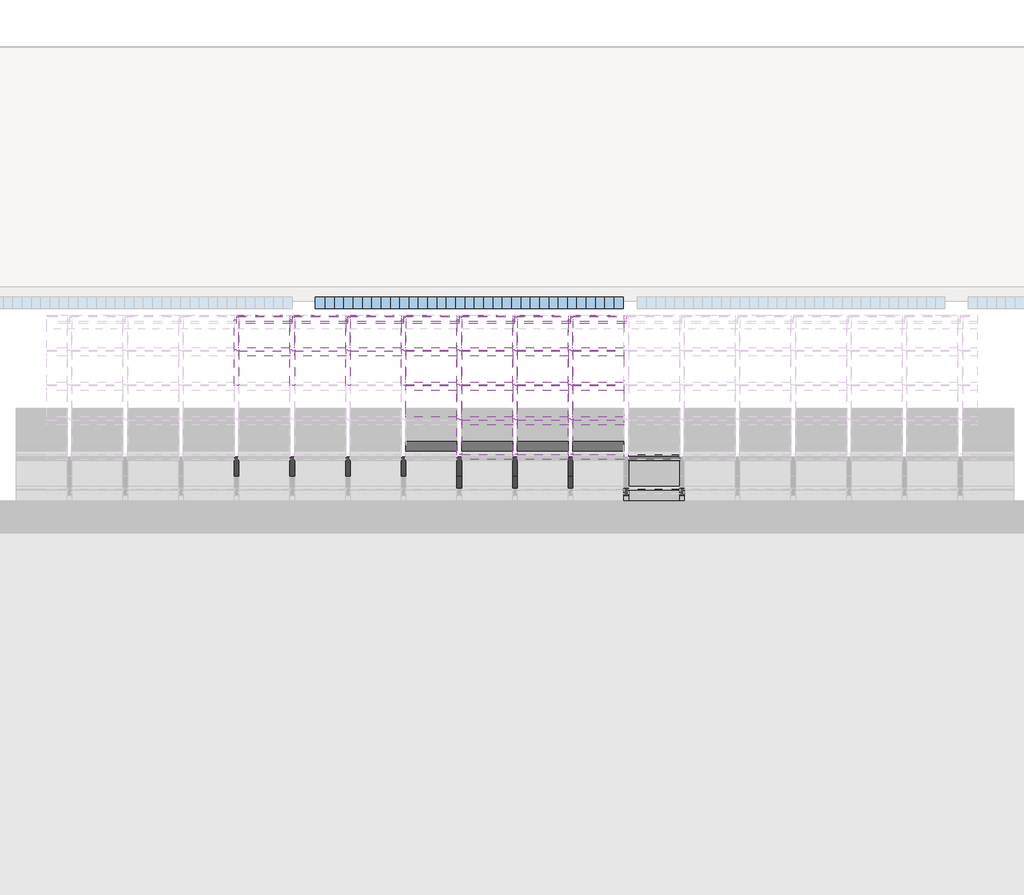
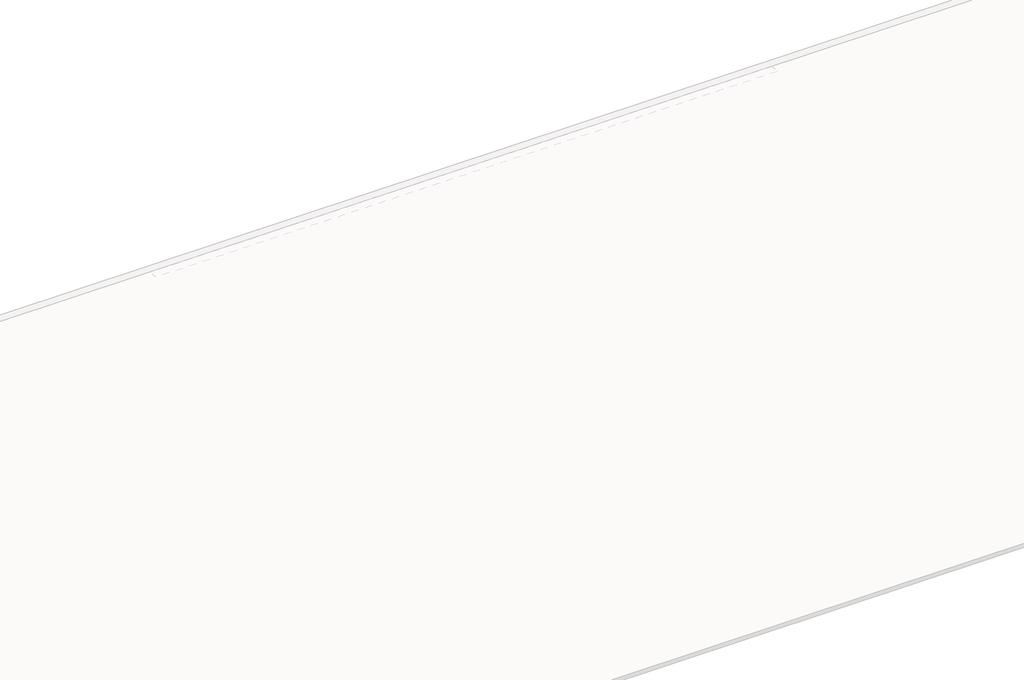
# One storey, part 31 of 57: 91 members, 30 plates, 1 window.
"""IFC4 building model written with IfcOpenShell, lengths in millimetres."""

from ifc_helpers import new_model, si_unit, origin, place, context, project, spatial, transform, mapped, element, save
from components import rectangular_mullion_4c4137b9, rectangular_mullion_59984080, rectangular_mullion_3ac3718c, rectangular_mullion_caibro_df98490b, rectangular_mullion_caibro_e4384bba, rectangular_mullion_caibro_0993a3cf, rectangular_mullion_caibro_650698a1, empty_system_panel_vazio_178faf58, window_60306791, window_6c828501, window_02d14e1e

model = new_model("IFC4")

# Units and contexts
model_context = context("Model", 3, world=origin())
ifc_project = project(units=[si_unit("LENGTHUNIT", "METRE", prefix="MILLI")], contexts=[model_context])

# Site, building, storey
site = spatial("IfcSite", under=ifc_project)
building = spatial("IfcBuilding", under=site)
storey = spatial("IfcBuildingStorey", under=building, Name="Nível 2", Elevation=4100.0)

# Members
placement = place(None, origin())
rectangular_mullion_shape = rectangular_mullion_4c4137b9(model_context)
element("IfcMember", 1, ObjectType="Rectangular Mullion : Ripa", at=placement, inside=storey, context=model_context, shape_type="MappedRepresentation", body=[
    mapped(rectangular_mullion_shape, transform((16080.9948064, 15566.1284427, 5819.8877114), x_axis=(0.0, 0.9578262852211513, 0.2873478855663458), y_axis=(0.0, 0.2873478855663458, -0.9578262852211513), z_axis=(-1.0, 0.0, 0.0))),
])
element("IfcMember", 2, ObjectType="Rectangular Mullion : Ripa", at=placement, inside=storey, context=model_context, shape_type="MappedRepresentation", body=[
    mapped(rectangular_mullion_shape, transform((16678.0495628, 15566.1284427, 5819.8877114), x_axis=(0.0, 0.9578262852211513, 0.2873478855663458), y_axis=(0.0, 0.2873478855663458, -0.9578262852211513), z_axis=(-1.0, 0.0, 0.0))),
])
element("IfcMember", 3, ObjectType="Rectangular Mullion : Ripa", at=placement, inside=storey, context=model_context, shape_type="MappedRepresentation", body=[
    mapped(rectangular_mullion_shape, transform((17275.1043192, 15566.1284427, 5819.8877114), x_axis=(0.0, 0.9578262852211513, 0.2873478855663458), y_axis=(0.0, 0.2873478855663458, -0.9578262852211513), z_axis=(-1.0, 0.0, 0.0))),
])
element("IfcMember", 4, ObjectType="Rectangular Mullion : Ripa", at=placement, inside=storey, context=model_context, shape_type="MappedRepresentation", body=[
    mapped(rectangular_mullion_shape, transform((17872.1590756, 15566.1284427, 5819.8877114), x_axis=(0.0, 0.9578262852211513, 0.2873478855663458), y_axis=(0.0, 0.2873478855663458, -0.9578262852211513), z_axis=(-1.0, 0.0, 0.0))),
])
element("IfcMember", 5, ObjectType="Rectangular Mullion : Ripa", at=placement, inside=storey, context=model_context, shape_type="MappedRepresentation", body=[
    mapped(rectangular_mullion_shape, transform((18469.2138321, 15566.1284427, 5819.8877114), x_axis=(0.0, 0.9578262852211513, 0.2873478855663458), y_axis=(0.0, 0.2873478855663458, -0.9578262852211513), z_axis=(-1.0, 0.0, 0.0))),
])
element("IfcMember", 6, ObjectType="Rectangular Mullion : Ripa", at=placement, inside=storey, context=model_context, shape_type="MappedRepresentation", body=[
    mapped(rectangular_mullion_shape, transform((19066.2685885, 15566.1284427, 5819.8877114), x_axis=(0.0, 0.9578262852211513, 0.2873478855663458), y_axis=(0.0, 0.2873478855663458, -0.9578262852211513), z_axis=(-1.0, 0.0, 0.0))),
])
element("IfcMember", 7, ObjectType="Rectangular Mullion : Ripa", at=placement, inside=storey, context=model_context, shape_type="MappedRepresentation", body=[
    mapped(rectangular_mullion_shape, transform((19663.3233449, 15566.1284427, 5819.8877114), x_axis=(0.0, 0.9578262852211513, 0.2873478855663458), y_axis=(0.0, 0.2873478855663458, -0.9578262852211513), z_axis=(-1.0, 0.0, 0.0))),
])
rectangular_mullion_2_shape = rectangular_mullion_59984080(model_context)
element("IfcMember", 8, ObjectType="Rectangular Mullion : Ripa", at=placement, inside=storey, context=model_context, shape_type="MappedRepresentation", body=[
    mapped(rectangular_mullion_2_shape, transform((20285.3781013, 12234.5331147, 4820.409113), x_axis=(0.0, 0.9578262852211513, 0.2873478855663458), y_axis=(0.0, 0.2873478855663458, -0.9578262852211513), z_axis=(-1.0, 0.0, 0.0))),
])
element("IfcMember", 9, ObjectType="Rectangular Mullion : Ripa", at=placement, inside=storey, context=model_context, shape_type="MappedRepresentation", body=[
    mapped(rectangular_mullion_2_shape, transform((20882.4328578, 12234.5331147, 4820.409113), x_axis=(0.0, 0.9578262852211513, 0.2873478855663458), y_axis=(0.0, 0.2873478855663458, -0.9578262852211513), z_axis=(-1.0, 0.0, 0.0))),
])
element("IfcMember", 10, ObjectType="Rectangular Mullion : Ripa", at=placement, inside=storey, context=model_context, shape_type="MappedRepresentation", body=[
    mapped(rectangular_mullion_2_shape, transform((21479.4876142, 12234.5331147, 4820.409113), x_axis=(0.0, 0.9578262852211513, 0.2873478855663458), y_axis=(0.0, 0.2873478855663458, -0.9578262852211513), z_axis=(-1.0, 0.0, 0.0))),
])
element("IfcMember", 11, ObjectType="Rectangular Mullion : Ripa", at=placement, inside=storey, context=model_context, shape_type="MappedRepresentation", body=[
    mapped(rectangular_mullion_2_shape, transform((20285.3781013, 12604.7103734, 4931.4622906), x_axis=(0.0, 0.9578262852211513, 0.2873478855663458), y_axis=(0.0, 0.2873478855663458, -0.9578262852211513), z_axis=(-1.0, 0.0, 0.0))),
])
element("IfcMember", 12, ObjectType="Rectangular Mullion : Ripa", at=placement, inside=storey, context=model_context, shape_type="MappedRepresentation", body=[
    mapped(rectangular_mullion_2_shape, transform((20882.4328578, 12604.7103734, 4931.4622906), x_axis=(0.0, 0.9578262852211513, 0.2873478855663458), y_axis=(0.0, 0.2873478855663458, -0.9578262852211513), z_axis=(-1.0, 0.0, 0.0))),
])
element("IfcMember", 13, ObjectType="Rectangular Mullion : Ripa", at=placement, inside=storey, context=model_context, shape_type="MappedRepresentation", body=[
    mapped(rectangular_mullion_2_shape, transform((21479.4876142, 12604.7103734, 4931.4622906), x_axis=(0.0, 0.9578262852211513, 0.2873478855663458), y_axis=(0.0, 0.2873478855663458, -0.9578262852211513), z_axis=(-1.0, 0.0, 0.0))),
])
element("IfcMember", 14, ObjectType="Rectangular Mullion : Ripa", at=placement, inside=storey, context=model_context, shape_type="MappedRepresentation", body=[
    mapped(rectangular_mullion_2_shape, transform((20285.3781013, 12974.8876321, 5042.5154682), x_axis=(0.0, 0.9578262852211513, 0.2873478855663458), y_axis=(0.0, 0.2873478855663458, -0.9578262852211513), z_axis=(-1.0, 0.0, 0.0))),
])
element("IfcMember", 15, ObjectType="Rectangular Mullion : Ripa", at=placement, inside=storey, context=model_context, shape_type="MappedRepresentation", body=[
    mapped(rectangular_mullion_2_shape, transform((20882.4328578, 12974.8876321, 5042.5154682), x_axis=(0.0, 0.9578262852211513, 0.2873478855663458), y_axis=(0.0, 0.2873478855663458, -0.9578262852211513), z_axis=(-1.0, 0.0, 0.0))),
])
element("IfcMember", 16, ObjectType="Rectangular Mullion : Ripa", at=placement, inside=storey, context=model_context, shape_type="MappedRepresentation", body=[
    mapped(rectangular_mullion_2_shape, transform((21479.4876142, 12974.8876321, 5042.5154682), x_axis=(0.0, 0.9578262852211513, 0.2873478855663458), y_axis=(0.0, 0.2873478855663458, -0.9578262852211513), z_axis=(-1.0, 0.0, 0.0))),
])
element("IfcMember", 17, ObjectType="Rectangular Mullion : Ripa", at=placement, inside=storey, context=model_context, shape_type="MappedRepresentation", body=[
    mapped(rectangular_mullion_2_shape, transform((20285.3781013, 13345.0648907, 5153.5686458), x_axis=(0.0, 0.9578262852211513, 0.2873478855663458), y_axis=(0.0, 0.2873478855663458, -0.9578262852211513), z_axis=(-1.0, 0.0, 0.0))),
])
element("IfcMember", 18, ObjectType="Rectangular Mullion : Ripa", at=placement, inside=storey, context=model_context, shape_type="MappedRepresentation", body=[
    mapped(rectangular_mullion_2_shape, transform((18494.2138321, 14085.4194081, 5375.675001), x_axis=(0.0, 0.9578262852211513, 0.2873478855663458), y_axis=(0.0, 0.2873478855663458, -0.9578262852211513), z_axis=(-1.0, 0.0, 0.0))),
])
element("IfcMember", 19, ObjectType="Rectangular Mullion : Ripa", at=placement, inside=storey, context=model_context, shape_type="MappedRepresentation", body=[
    mapped(rectangular_mullion_2_shape, transform((19091.2685885, 14085.4194081, 5375.675001), x_axis=(0.0, 0.9578262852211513, 0.2873478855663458), y_axis=(0.0, 0.2873478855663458, -0.9578262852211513), z_axis=(-1.0, 0.0, 0.0))),
])
element("IfcMember", 20, ObjectType="Rectangular Mullion : Ripa", at=placement, inside=storey, context=model_context, shape_type="MappedRepresentation", body=[
    mapped(rectangular_mullion_2_shape, transform((19688.3233449, 14085.4194081, 5375.675001), x_axis=(0.0, 0.9578262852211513, 0.2873478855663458), y_axis=(0.0, 0.2873478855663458, -0.9578262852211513), z_axis=(-1.0, 0.0, 0.0))),
])
element("IfcMember", 21, ObjectType="Rectangular Mullion : Ripa", at=placement, inside=storey, context=model_context, shape_type="MappedRepresentation", body=[
    mapped(rectangular_mullion_2_shape, transform((18494.2138321, 14455.5966667, 5486.7281786), x_axis=(0.0, 0.9578262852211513, 0.2873478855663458), y_axis=(0.0, 0.2873478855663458, -0.9578262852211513), z_axis=(-1.0, 0.0, 0.0))),
])
element("IfcMember", 22, ObjectType="Rectangular Mullion : Ripa", at=placement, inside=storey, context=model_context, shape_type="MappedRepresentation", body=[
    mapped(rectangular_mullion_2_shape, transform((19091.2685885, 14455.5966667, 5486.7281786), x_axis=(0.0, 0.9578262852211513, 0.2873478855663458), y_axis=(0.0, 0.2873478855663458, -0.9578262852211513), z_axis=(-1.0, 0.0, 0.0))),
])
element("IfcMember", 23, ObjectType="Rectangular Mullion : Ripa", at=placement, inside=storey, context=model_context, shape_type="MappedRepresentation", body=[
    mapped(rectangular_mullion_2_shape, transform((19688.3233449, 14455.5966667, 5486.7281786), x_axis=(0.0, 0.9578262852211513, 0.2873478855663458), y_axis=(0.0, 0.2873478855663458, -0.9578262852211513), z_axis=(-1.0, 0.0, 0.0))),
])
element("IfcMember", 24, ObjectType="Rectangular Mullion : Ripa", at=placement, inside=storey, context=model_context, shape_type="MappedRepresentation", body=[
    mapped(rectangular_mullion_2_shape, transform((17897.1590756, 14825.7739254, 5597.7813562), x_axis=(0.0, 0.9578262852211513, 0.2873478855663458), y_axis=(0.0, 0.2873478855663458, -0.9578262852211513), z_axis=(-1.0, 0.0, 0.0))),
])
element("IfcMember", 25, ObjectType="Rectangular Mullion : Ripa", at=placement, inside=storey, context=model_context, shape_type="MappedRepresentation", body=[
    mapped(rectangular_mullion_2_shape, transform((18494.2138321, 14825.7739254, 5597.7813562), x_axis=(0.0, 0.9578262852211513, 0.2873478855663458), y_axis=(0.0, 0.2873478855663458, -0.9578262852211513), z_axis=(-1.0, 0.0, 0.0))),
])
element("IfcMember", 26, ObjectType="Rectangular Mullion : Ripa", at=placement, inside=storey, context=model_context, shape_type="MappedRepresentation", body=[
    mapped(rectangular_mullion_2_shape, transform((19091.2685885, 14825.7739254, 5597.7813562), x_axis=(0.0, 0.9578262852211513, 0.2873478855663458), y_axis=(0.0, 0.2873478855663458, -0.9578262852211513), z_axis=(-1.0, 0.0, 0.0))),
])
element("IfcMember", 27, ObjectType="Rectangular Mullion : Ripa", at=placement, inside=storey, context=model_context, shape_type="MappedRepresentation", body=[
    mapped(rectangular_mullion_2_shape, transform((19688.3233449, 14825.7739254, 5597.7813562), x_axis=(0.0, 0.9578262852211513, 0.2873478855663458), y_axis=(0.0, 0.2873478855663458, -0.9578262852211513), z_axis=(-1.0, 0.0, 0.0))),
])
element("IfcMember", 28, ObjectType="Rectangular Mullion : Ripa", at=placement, inside=storey, context=model_context, shape_type="MappedRepresentation", body=[
    mapped(rectangular_mullion_2_shape, transform((16105.9948064, 15195.9511841, 5708.8345338), x_axis=(0.0, 0.9578262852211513, 0.2873478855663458), y_axis=(0.0, 0.2873478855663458, -0.9578262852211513), z_axis=(-1.0, 0.0, 0.0))),
])
element("IfcMember", 29, ObjectType="Rectangular Mullion : Ripa", at=placement, inside=storey, context=model_context, shape_type="MappedRepresentation", body=[
    mapped(rectangular_mullion_2_shape, transform((16703.0495628, 15195.9511841, 5708.8345338), x_axis=(0.0, 0.9578262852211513, 0.2873478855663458), y_axis=(0.0, 0.2873478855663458, -0.9578262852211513), z_axis=(-1.0, 0.0, 0.0))),
])
element("IfcMember", 30, ObjectType="Rectangular Mullion : Ripa", at=placement, inside=storey, context=model_context, shape_type="MappedRepresentation", body=[
    mapped(rectangular_mullion_2_shape, transform((17300.1043192, 15195.9511841, 5708.8345338), x_axis=(0.0, 0.9578262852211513, 0.2873478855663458), y_axis=(0.0, 0.2873478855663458, -0.9578262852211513), z_axis=(-1.0, 0.0, 0.0))),
])
element("IfcMember", 31, ObjectType="Rectangular Mullion : Ripa", at=placement, inside=storey, context=model_context, shape_type="MappedRepresentation", body=[
    mapped(rectangular_mullion_2_shape, transform((17897.1590756, 15195.9511841, 5708.8345338), x_axis=(0.0, 0.9578262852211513, 0.2873478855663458), y_axis=(0.0, 0.2873478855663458, -0.9578262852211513), z_axis=(-1.0, 0.0, 0.0))),
])
element("IfcMember", 32, ObjectType="Rectangular Mullion : Ripa", at=placement, inside=storey, context=model_context, shape_type="MappedRepresentation", body=[
    mapped(rectangular_mullion_2_shape, transform((18494.2138321, 15195.9511841, 5708.8345338), x_axis=(0.0, 0.9578262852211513, 0.2873478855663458), y_axis=(0.0, 0.2873478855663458, -0.9578262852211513), z_axis=(-1.0, 0.0, 0.0))),
])
element("IfcMember", 33, ObjectType="Rectangular Mullion : Ripa", at=placement, inside=storey, context=model_context, shape_type="MappedRepresentation", body=[
    mapped(rectangular_mullion_2_shape, transform((19091.2685885, 15195.9511841, 5708.8345338), x_axis=(0.0, 0.9578262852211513, 0.2873478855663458), y_axis=(0.0, 0.2873478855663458, -0.9578262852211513), z_axis=(-1.0, 0.0, 0.0))),
])
element("IfcMember", 34, ObjectType="Rectangular Mullion : Ripa", at=placement, inside=storey, context=model_context, shape_type="MappedRepresentation", body=[
    mapped(rectangular_mullion_2_shape, transform((19688.3233449, 15195.9511841, 5708.8345338), x_axis=(0.0, 0.9578262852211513, 0.2873478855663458), y_axis=(0.0, 0.2873478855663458, -0.9578262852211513), z_axis=(-1.0, 0.0, 0.0))),
])
rectangular_mullion_3_shape = rectangular_mullion_3ac3718c(model_context)
element("IfcMember", 35, ObjectType="Rectangular Mullion : Terça", at=placement, inside=storey, context=model_context, shape_type="MappedRepresentation", body=[
    mapped(rectangular_mullion_3_shape, transform((16080.9948064, 15566.1284427, 5757.2458723), x_axis=(0.0, 0.9578262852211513, 0.2873478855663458), y_axis=(0.0, 0.2873478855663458, -0.9578262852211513), z_axis=(-1.0, 0.0, 0.0))),
])
element("IfcMember", 36, ObjectType="Rectangular Mullion : Terça", at=placement, inside=storey, context=model_context, shape_type="MappedRepresentation", body=[
    mapped(rectangular_mullion_3_shape, transform((16678.0495628, 15566.1284427, 5757.2458723), x_axis=(0.0, 0.9578262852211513, 0.2873478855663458), y_axis=(0.0, 0.2873478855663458, -0.9578262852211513), z_axis=(-1.0, 0.0, 0.0))),
])
element("IfcMember", 37, ObjectType="Rectangular Mullion : Terça", at=placement, inside=storey, context=model_context, shape_type="MappedRepresentation", body=[
    mapped(rectangular_mullion_3_shape, transform((17275.1043192, 15566.1284427, 5757.2458723), x_axis=(0.0, 0.9578262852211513, 0.2873478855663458), y_axis=(0.0, 0.2873478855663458, -0.9578262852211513), z_axis=(-1.0, 0.0, 0.0))),
])
element("IfcMember", 38, ObjectType="Rectangular Mullion : Terça", at=placement, inside=storey, context=model_context, shape_type="MappedRepresentation", body=[
    mapped(rectangular_mullion_3_shape, transform((17872.1590756, 15566.1284427, 5757.2458723), x_axis=(0.0, 0.9578262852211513, 0.2873478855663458), y_axis=(0.0, 0.2873478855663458, -0.9578262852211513), z_axis=(-1.0, 0.0, 0.0))),
])
element("IfcMember", 39, ObjectType="Rectangular Mullion : Terça", at=placement, inside=storey, context=model_context, shape_type="MappedRepresentation", body=[
    mapped(rectangular_mullion_3_shape, transform((18469.2138321, 15566.1284427, 5757.2458723), x_axis=(0.0, 0.9578262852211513, 0.2873478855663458), y_axis=(0.0, 0.2873478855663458, -0.9578262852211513), z_axis=(-1.0, 0.0, 0.0))),
])
element("IfcMember", 40, ObjectType="Rectangular Mullion : Terça", at=placement, inside=storey, context=model_context, shape_type="MappedRepresentation", body=[
    mapped(rectangular_mullion_3_shape, transform((19066.2685885, 15566.1284427, 5757.2458723), x_axis=(0.0, 0.9578262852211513, 0.2873478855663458), y_axis=(0.0, 0.2873478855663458, -0.9578262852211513), z_axis=(-1.0, 0.0, 0.0))),
])
element("IfcMember", 41, ObjectType="Rectangular Mullion : Terça", at=placement, inside=storey, context=model_context, shape_type="MappedRepresentation", body=[
    mapped(rectangular_mullion_3_shape, transform((19663.3233449, 15566.1284427, 5757.2458723), x_axis=(0.0, 0.9578262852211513, 0.2873478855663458), y_axis=(0.0, 0.2873478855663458, -0.9578262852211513), z_axis=(-1.0, 0.0, 0.0))),
])
rectangular_mullion_caibro_shape = rectangular_mullion_caibro_df98490b(model_context)
element("IfcMember", 42, ObjectType="Rectangular Mullion : Caibro", at=placement, inside=storey, context=model_context, shape_type="MappedRepresentation", body=[
    mapped(rectangular_mullion_caibro_shape, transform((16080.9948064, 15518.2371285, 5805.5203171), x_axis=(1.0, 0.0, 0.0), y_axis=(0.0, 0.28734788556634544, -0.9578262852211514), z_axis=(0.0, 0.9578262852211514, 0.28734788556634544))),
])
element("IfcMember", 43, ObjectType="Rectangular Mullion : Caibro", at=placement, inside=storey, context=model_context, shape_type="MappedRepresentation", body=[
    mapped(rectangular_mullion_caibro_shape, transform((16678.0495628, 15518.2371285, 5805.5203171), x_axis=(1.0, 0.0, 0.0), y_axis=(0.0, 0.28734788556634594, -0.9578262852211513), z_axis=(0.0, 0.9578262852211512, 0.2873478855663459))),
])
element("IfcMember", 44, ObjectType="Rectangular Mullion : Caibro", at=placement, inside=storey, context=model_context, shape_type="MappedRepresentation", body=[
    mapped(rectangular_mullion_caibro_shape, transform((17275.1043192, 15518.2371285, 5805.5203171), x_axis=(1.0, 0.0, 0.0), y_axis=(0.0, 0.28734788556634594, -0.9578262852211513), z_axis=(0.0, 0.9578262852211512, 0.2873478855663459))),
])
element("IfcMember", 45, ObjectType="Rectangular Mullion : Caibro", at=placement, inside=storey, context=model_context, shape_type="MappedRepresentation", body=[
    mapped(rectangular_mullion_caibro_shape, transform((17872.1590756, 15518.2371285, 5805.5203171), x_axis=(1.0, 0.0, 0.0), y_axis=(0.0, 0.28734788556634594, -0.9578262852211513), z_axis=(0.0, 0.9578262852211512, 0.2873478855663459))),
])
element("IfcMember", 46, ObjectType="Rectangular Mullion : Caibro", at=placement, inside=storey, context=model_context, shape_type="MappedRepresentation", body=[
    mapped(rectangular_mullion_caibro_shape, transform((18469.2138321, 15518.2371285, 5805.5203171), x_axis=(1.0, 0.0, 0.0), y_axis=(0.0, 0.28734788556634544, -0.9578262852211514), z_axis=(0.0, 0.9578262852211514, 0.28734788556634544))),
])
element("IfcMember", 47, ObjectType="Rectangular Mullion : Caibro", at=placement, inside=storey, context=model_context, shape_type="MappedRepresentation", body=[
    mapped(rectangular_mullion_caibro_shape, transform((19066.2685885, 15518.2371285, 5805.5203171), x_axis=(1.0, 0.0, 0.0), y_axis=(0.0, 0.28734788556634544, -0.9578262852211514), z_axis=(0.0, 0.9578262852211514, 0.28734788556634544))),
])
element("IfcMember", 48, ObjectType="Rectangular Mullion : Caibro", at=placement, inside=storey, context=model_context, shape_type="MappedRepresentation", body=[
    mapped(rectangular_mullion_caibro_shape, transform((19663.3233449, 15518.2371285, 5805.5203171), x_axis=(1.0, 0.0, 0.0), y_axis=(0.0, 0.28734788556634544, -0.9578262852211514), z_axis=(0.0, 0.9578262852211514, 0.28734788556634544))),
])
rectangular_mullion_caibro_2_shape = rectangular_mullion_caibro_e4384bba(model_context)
element("IfcMember", 49, ObjectType="Rectangular Mullion : Caibro", at=placement, inside=storey, context=model_context, shape_type="MappedRepresentation", body=[
    mapped(rectangular_mullion_caibro_2_shape, transform((16080.9948064, 15195.9511841, 5708.8345338), x_axis=(1.0, 0.0, 0.0), y_axis=(0.0, 0.28734788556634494, -0.9578262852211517), z_axis=(0.0, 0.9578262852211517, 0.28734788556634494))),
])
element("IfcMember", 50, ObjectType="Rectangular Mullion : Caibro", at=placement, inside=storey, context=model_context, shape_type="MappedRepresentation", body=[
    mapped(rectangular_mullion_caibro_2_shape, transform((16678.0495628, 15195.9511841, 5708.8345338), x_axis=(1.0, 0.0, 0.0), y_axis=(0.0, 0.28734788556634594, -0.9578262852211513), z_axis=(0.0, 0.9578262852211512, 0.2873478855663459))),
])
element("IfcMember", 51, ObjectType="Rectangular Mullion : Caibro", at=placement, inside=storey, context=model_context, shape_type="MappedRepresentation", body=[
    mapped(rectangular_mullion_caibro_2_shape, transform((17275.1043192, 15195.9511841, 5708.8345338), x_axis=(1.0, 0.0, 0.0), y_axis=(0.0, 0.28734788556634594, -0.9578262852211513), z_axis=(0.0, 0.9578262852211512, 0.2873478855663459))),
])
element("IfcMember", 52, ObjectType="Rectangular Mullion : Caibro", at=placement, inside=storey, context=model_context, shape_type="MappedRepresentation", body=[
    mapped(rectangular_mullion_caibro_2_shape, transform((17872.1590756, 15195.9511841, 5708.8345338), x_axis=(1.0, 0.0, 0.0), y_axis=(0.0, 0.28734788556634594, -0.9578262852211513), z_axis=(0.0, 0.9578262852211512, 0.2873478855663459))),
])
element("IfcMember", 53, ObjectType="Rectangular Mullion : Caibro", at=placement, inside=storey, context=model_context, shape_type="MappedRepresentation", body=[
    mapped(rectangular_mullion_caibro_2_shape, transform((18469.2138321, 14085.4194081, 5375.675001), x_axis=(1.0, 0.0, 0.0), y_axis=(0.0, 0.28734788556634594, -0.9578262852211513), z_axis=(0.0, 0.9578262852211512, 0.2873478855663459))),
])
element("IfcMember", 54, ObjectType="Rectangular Mullion : Caibro", at=placement, inside=storey, context=model_context, shape_type="MappedRepresentation", body=[
    mapped(rectangular_mullion_caibro_2_shape, transform((18469.2138321, 14455.5966667, 5486.7281786), x_axis=(1.0, 0.0, 0.0), y_axis=(0.0, 0.2873478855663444, -0.9578262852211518), z_axis=(0.0, 0.9578262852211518, 0.2873478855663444))),
])
element("IfcMember", 55, ObjectType="Rectangular Mullion : Caibro", at=placement, inside=storey, context=model_context, shape_type="MappedRepresentation", body=[
    mapped(rectangular_mullion_caibro_2_shape, transform((18469.2138321, 14825.7739254, 5597.7813562), x_axis=(1.0, 0.0, 0.0), y_axis=(0.0, 0.287347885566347, -0.9578262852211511), z_axis=(0.0, 0.9578262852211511, 0.287347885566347))),
])
element("IfcMember", 56, ObjectType="Rectangular Mullion : Caibro", at=placement, inside=storey, context=model_context, shape_type="MappedRepresentation", body=[
    mapped(rectangular_mullion_caibro_2_shape, transform((18469.2138321, 15195.9511841, 5708.8345338), x_axis=(1.0, 0.0, 0.0), y_axis=(0.0, 0.28734788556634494, -0.9578262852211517), z_axis=(0.0, 0.9578262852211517, 0.28734788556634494))),
])
element("IfcMember", 57, ObjectType="Rectangular Mullion : Caibro", at=placement, inside=storey, context=model_context, shape_type="MappedRepresentation", body=[
    mapped(rectangular_mullion_caibro_2_shape, transform((19066.2685885, 14085.4194081, 5375.675001), x_axis=(1.0, 0.0, 0.0), y_axis=(0.0, 0.28734788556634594, -0.9578262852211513), z_axis=(0.0, 0.9578262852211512, 0.2873478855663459))),
])
element("IfcMember", 58, ObjectType="Rectangular Mullion : Caibro", at=placement, inside=storey, context=model_context, shape_type="MappedRepresentation", body=[
    mapped(rectangular_mullion_caibro_2_shape, transform((19066.2685885, 14455.5966667, 5486.7281786), x_axis=(1.0, 0.0, 0.0), y_axis=(0.0, 0.2873478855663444, -0.9578262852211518), z_axis=(0.0, 0.9578262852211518, 0.2873478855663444))),
])
element("IfcMember", 59, ObjectType="Rectangular Mullion : Caibro", at=placement, inside=storey, context=model_context, shape_type="MappedRepresentation", body=[
    mapped(rectangular_mullion_caibro_2_shape, transform((19066.2685885, 14825.7739254, 5597.7813562), x_axis=(1.0, 0.0, 0.0), y_axis=(0.0, 0.287347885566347, -0.9578262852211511), z_axis=(0.0, 0.9578262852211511, 0.287347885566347))),
])
element("IfcMember", 60, ObjectType="Rectangular Mullion : Caibro", at=placement, inside=storey, context=model_context, shape_type="MappedRepresentation", body=[
    mapped(rectangular_mullion_caibro_2_shape, transform((19066.2685885, 15195.9511841, 5708.8345338), x_axis=(1.0, 0.0, 0.0), y_axis=(0.0, 0.28734788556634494, -0.9578262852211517), z_axis=(0.0, 0.9578262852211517, 0.28734788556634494))),
])
element("IfcMember", 61, ObjectType="Rectangular Mullion : Caibro", at=placement, inside=storey, context=model_context, shape_type="MappedRepresentation", body=[
    mapped(rectangular_mullion_caibro_2_shape, transform((19663.3233449, 14085.4194081, 5375.675001), x_axis=(1.0, 0.0, 0.0), y_axis=(0.0, 0.28734788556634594, -0.9578262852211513), z_axis=(0.0, 0.9578262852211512, 0.2873478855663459))),
])
element("IfcMember", 62, ObjectType="Rectangular Mullion : Caibro", at=placement, inside=storey, context=model_context, shape_type="MappedRepresentation", body=[
    mapped(rectangular_mullion_caibro_2_shape, transform((19663.3233449, 14455.5966667, 5486.7281786), x_axis=(1.0, 0.0, 0.0), y_axis=(0.0, 0.2873478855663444, -0.9578262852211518), z_axis=(0.0, 0.9578262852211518, 0.2873478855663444))),
])
element("IfcMember", 63, ObjectType="Rectangular Mullion : Caibro", at=placement, inside=storey, context=model_context, shape_type="MappedRepresentation", body=[
    mapped(rectangular_mullion_caibro_2_shape, transform((19663.3233449, 14825.7739254, 5597.7813562), x_axis=(1.0, 0.0, 0.0), y_axis=(0.0, 0.287347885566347, -0.9578262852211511), z_axis=(0.0, 0.9578262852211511, 0.287347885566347))),
])
element("IfcMember", 64, ObjectType="Rectangular Mullion : Caibro", at=placement, inside=storey, context=model_context, shape_type="MappedRepresentation", body=[
    mapped(rectangular_mullion_caibro_2_shape, transform((19663.3233449, 15195.9511841, 5708.8345338), x_axis=(1.0, 0.0, 0.0), y_axis=(0.0, 0.28734788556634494, -0.9578262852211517), z_axis=(0.0, 0.9578262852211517, 0.28734788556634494))),
])
element("IfcMember", 65, ObjectType="Rectangular Mullion : Caibro", at=placement, inside=storey, context=model_context, shape_type="MappedRepresentation", body=[
    mapped(rectangular_mullion_caibro_2_shape, transform((20260.3781013, 12234.5331147, 4820.409113), x_axis=(1.0, 0.0, 0.0), y_axis=(0.0, 0.2873478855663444, -0.9578262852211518), z_axis=(0.0, 0.9578262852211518, 0.2873478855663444))),
])
element("IfcMember", 66, ObjectType="Rectangular Mullion : Caibro", at=placement, inside=storey, context=model_context, shape_type="MappedRepresentation", body=[
    mapped(rectangular_mullion_caibro_2_shape, transform((20260.3781013, 12604.7103734, 4931.4622906), x_axis=(1.0, 0.0, 0.0), y_axis=(0.0, 0.2873478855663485, -0.9578262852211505), z_axis=(0.0, 0.9578262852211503, 0.28734788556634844))),
])
element("IfcMember", 67, ObjectType="Rectangular Mullion : Caibro", at=placement, inside=storey, context=model_context, shape_type="MappedRepresentation", body=[
    mapped(rectangular_mullion_caibro_2_shape, transform((20260.3781013, 12974.8876321, 5042.5154682), x_axis=(1.0, 0.0, 0.0), y_axis=(0.0, 0.2873478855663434, -0.957826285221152), z_axis=(0.0, 0.957826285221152, 0.2873478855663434))),
])
element("IfcMember", 68, ObjectType="Rectangular Mullion : Caibro", at=placement, inside=storey, context=model_context, shape_type="MappedRepresentation", body=[
    mapped(rectangular_mullion_caibro_2_shape, transform((20260.3781013, 13345.0648907, 5153.5686458), x_axis=(1.0, 0.0, 0.0), y_axis=(0.0, 0.28734788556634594, -0.9578262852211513), z_axis=(0.0, 0.9578262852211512, 0.2873478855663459))),
])
element("IfcMember", 69, ObjectType="Rectangular Mullion : Caibro", at=placement, inside=storey, context=model_context, shape_type="MappedRepresentation", body=[
    mapped(rectangular_mullion_caibro_2_shape, transform((20260.3781013, 13715.2421494, 5264.6218234), x_axis=(1.0, 0.0, 0.0), y_axis=(0.0, 0.28734788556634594, -0.9578262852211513), z_axis=(0.0, 0.9578262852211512, 0.2873478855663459))),
])
element("IfcMember", 70, ObjectType="Rectangular Mullion : Caibro", at=placement, inside=storey, context=model_context, shape_type="MappedRepresentation", body=[
    mapped(rectangular_mullion_caibro_2_shape, transform((20857.4328578, 12234.5331147, 4820.409113), x_axis=(1.0, 0.0, 0.0), y_axis=(0.0, 0.2873478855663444, -0.9578262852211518), z_axis=(0.0, 0.9578262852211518, 0.2873478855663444))),
])
element("IfcMember", 71, ObjectType="Rectangular Mullion : Caibro", at=placement, inside=storey, context=model_context, shape_type="MappedRepresentation", body=[
    mapped(rectangular_mullion_caibro_2_shape, transform((20857.4328578, 12604.7103734, 4931.4622906), x_axis=(1.0, 0.0, 0.0), y_axis=(0.0, 0.2873478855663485, -0.9578262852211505), z_axis=(0.0, 0.9578262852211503, 0.28734788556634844))),
])
element("IfcMember", 72, ObjectType="Rectangular Mullion : Caibro", at=placement, inside=storey, context=model_context, shape_type="MappedRepresentation", body=[
    mapped(rectangular_mullion_caibro_2_shape, transform((20857.4328578, 12974.8876321, 5042.5154682), x_axis=(1.0, 0.0, 0.0), y_axis=(0.0, 0.2873478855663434, -0.957826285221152), z_axis=(0.0, 0.957826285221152, 0.2873478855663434))),
])
element("IfcMember", 73, ObjectType="Rectangular Mullion : Caibro", at=placement, inside=storey, context=model_context, shape_type="MappedRepresentation", body=[
    mapped(rectangular_mullion_caibro_2_shape, transform((20857.4328578, 13345.0648907, 5153.5686458), x_axis=(1.0, 0.0, 0.0), y_axis=(0.0, 0.28734788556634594, -0.9578262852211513), z_axis=(0.0, 0.9578262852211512, 0.2873478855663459))),
])
element("IfcMember", 74, ObjectType="Rectangular Mullion : Caibro", at=placement, inside=storey, context=model_context, shape_type="MappedRepresentation", body=[
    mapped(rectangular_mullion_caibro_2_shape, transform((20857.4328578, 13715.2421494, 5264.6218234), x_axis=(1.0, 0.0, 0.0), y_axis=(0.0, 0.28734788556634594, -0.9578262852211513), z_axis=(0.0, 0.9578262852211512, 0.2873478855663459))),
])
element("IfcMember", 75, ObjectType="Rectangular Mullion : Caibro", at=placement, inside=storey, context=model_context, shape_type="MappedRepresentation", body=[
    mapped(rectangular_mullion_caibro_2_shape, transform((21454.4876142, 12234.5331147, 4820.409113), x_axis=(1.0, 0.0, 0.0), y_axis=(0.0, 0.2873478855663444, -0.9578262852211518), z_axis=(0.0, 0.9578262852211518, 0.2873478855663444))),
])
element("IfcMember", 76, ObjectType="Rectangular Mullion : Caibro", at=placement, inside=storey, context=model_context, shape_type="MappedRepresentation", body=[
    mapped(rectangular_mullion_caibro_2_shape, transform((21454.4876142, 12604.7103734, 4931.4622906), x_axis=(1.0, 0.0, 0.0), y_axis=(0.0, 0.2873478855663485, -0.9578262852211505), z_axis=(0.0, 0.9578262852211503, 0.28734788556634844))),
])
element("IfcMember", 77, ObjectType="Rectangular Mullion : Caibro", at=placement, inside=storey, context=model_context, shape_type="MappedRepresentation", body=[
    mapped(rectangular_mullion_caibro_2_shape, transform((21454.4876142, 12974.8876321, 5042.5154682), x_axis=(1.0, 0.0, 0.0), y_axis=(0.0, 0.2873478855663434, -0.957826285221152), z_axis=(0.0, 0.957826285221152, 0.2873478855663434))),
])
rectangular_mullion_caibro_3_shape = rectangular_mullion_caibro_0993a3cf(model_context)
element("IfcMember", 78, ObjectType="Rectangular Mullion : Caibro", at=placement, inside=storey, context=model_context, shape_type="MappedRepresentation", body=[
    mapped(rectangular_mullion_caibro_3_shape, transform((16080.9948064, 15508.6588656, 5740.0049992), x_axis=(1.0, 0.0, 0.0), y_axis=(0.0, 0.28734788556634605, -0.9578262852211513), z_axis=(0.0, 0.9578262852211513, 0.28734788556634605))),
])
element("IfcMember", 79, ObjectType="Rectangular Mullion : Caibro", at=placement, inside=storey, context=model_context, shape_type="MappedRepresentation", body=[
    mapped(rectangular_mullion_caibro_3_shape, transform((16678.0495628, 15508.6588656, 5740.0049992), x_axis=(1.0, 0.0, 0.0), y_axis=(0.0, 0.28734788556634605, -0.9578262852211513), z_axis=(0.0, 0.9578262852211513, 0.28734788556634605))),
])
element("IfcMember", 80, ObjectType="Rectangular Mullion : Caibro", at=placement, inside=storey, context=model_context, shape_type="MappedRepresentation", body=[
    mapped(rectangular_mullion_caibro_3_shape, transform((17275.1043192, 15508.6588656, 5740.0049992), x_axis=(1.0, 0.0, 0.0), y_axis=(0.0, 0.28734788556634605, -0.9578262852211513), z_axis=(0.0, 0.9578262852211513, 0.28734788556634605))),
])
element("IfcMember", 81, ObjectType="Rectangular Mullion : Caibro", at=placement, inside=storey, context=model_context, shape_type="MappedRepresentation", body=[
    mapped(rectangular_mullion_caibro_3_shape, transform((17872.1590756, 15508.6588656, 5740.0049992), x_axis=(1.0, 0.0, 0.0), y_axis=(0.0, 0.28734788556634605, -0.9578262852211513), z_axis=(0.0, 0.9578262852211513, 0.28734788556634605))),
])
element("IfcMember", 82, ObjectType="Rectangular Mullion : Caibro", at=placement, inside=storey, context=model_context, shape_type="MappedRepresentation", body=[
    mapped(rectangular_mullion_caibro_3_shape, transform((18469.2138321, 15508.6588656, 5740.0049992), x_axis=(1.0, 0.0, 0.0), y_axis=(0.0, 0.28734788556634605, -0.9578262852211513), z_axis=(0.0, 0.9578262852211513, 0.28734788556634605))),
])
element("IfcMember", 83, ObjectType="Rectangular Mullion : Caibro", at=placement, inside=storey, context=model_context, shape_type="MappedRepresentation", body=[
    mapped(rectangular_mullion_caibro_3_shape, transform((19066.2685885, 15508.6588656, 5740.0049992), x_axis=(1.0, 0.0, 0.0), y_axis=(0.0, 0.28734788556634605, -0.9578262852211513), z_axis=(0.0, 0.9578262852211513, 0.28734788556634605))),
])
element("IfcMember", 84, ObjectType="Rectangular Mullion : Caibro", at=placement, inside=storey, context=model_context, shape_type="MappedRepresentation", body=[
    mapped(rectangular_mullion_caibro_3_shape, transform((19663.3233449, 15508.6588656, 5740.0049992), x_axis=(1.0, 0.0, 0.0), y_axis=(0.0, 0.28734788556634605, -0.9578262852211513), z_axis=(0.0, 0.9578262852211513, 0.28734788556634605))),
])
rectangular_mullion_caibro_4_shape = rectangular_mullion_caibro_650698a1(model_context)
element("IfcMember", 85, ObjectType="Rectangular Mullion : Caibro", at=placement, inside=storey, context=model_context, shape_type="MappedRepresentation", body=[
    mapped(rectangular_mullion_caibro_4_shape, transform((19652.2865994, 15772.0058221, 4410.7541277), x_axis=(-1.0, 0.0, 0.0), y_axis=(0.0, -0.2873478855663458, -0.9578262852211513), z_axis=(0.0, -0.9578262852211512, 0.2873478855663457))),
])
element("IfcMember", 86, ObjectType="Rectangular Mullion : Caibro", at=placement, inside=storey, context=model_context, shape_type="MappedRepresentation", body=[
    mapped(rectangular_mullion_caibro_4_shape, transform((19054.9380978, 15772.0058221, 4410.7541277), x_axis=(-1.0, 0.0, 0.0), y_axis=(0.0, -0.2873478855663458, -0.9578262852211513), z_axis=(0.0, -0.9578262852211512, 0.2873478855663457))),
])
element("IfcMember", 87, ObjectType="Rectangular Mullion : Caibro", at=placement, inside=storey, context=model_context, shape_type="MappedRepresentation", body=[
    mapped(rectangular_mullion_caibro_4_shape, transform((18457.5895961, 15772.0058221, 4410.7541277), x_axis=(-1.0, 0.0, 0.0), y_axis=(0.0, -0.2873478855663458, -0.9578262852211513), z_axis=(0.0, -0.9578262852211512, 0.2873478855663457))),
])
element("IfcMember", 88, ObjectType="Rectangular Mullion : Caibro", at=placement, inside=storey, context=model_context, shape_type="MappedRepresentation", body=[
    mapped(rectangular_mullion_caibro_4_shape, transform((17860.2410944, 15772.0058221, 4410.7541277), x_axis=(-1.0, 0.0, 0.0), y_axis=(0.0, -0.2873478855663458, -0.9578262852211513), z_axis=(0.0, -0.9578262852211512, 0.2873478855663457))),
])
element("IfcMember", 89, ObjectType="Rectangular Mullion : Caibro", at=placement, inside=storey, context=model_context, shape_type="MappedRepresentation", body=[
    mapped(rectangular_mullion_caibro_4_shape, transform((17262.8925928, 15772.0058221, 4410.7541277), x_axis=(-1.0, 0.0, 0.0), y_axis=(0.0, -0.2873478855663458, -0.9578262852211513), z_axis=(0.0, -0.9578262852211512, 0.2873478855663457))),
])
element("IfcMember", 90, ObjectType="Rectangular Mullion : Caibro", at=placement, inside=storey, context=model_context, shape_type="MappedRepresentation", body=[
    mapped(rectangular_mullion_caibro_4_shape, transform((16665.5440911, 15772.0058221, 4410.7541277), x_axis=(-1.0, 0.0, 0.0), y_axis=(0.0, -0.2873478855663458, -0.9578262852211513), z_axis=(0.0, -0.9578262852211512, 0.2873478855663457))),
])
element("IfcMember", 91, ObjectType="Rectangular Mullion : Caibro", at=placement, inside=storey, context=model_context, shape_type="MappedRepresentation", body=[
    mapped(rectangular_mullion_caibro_4_shape, transform((16068.1955894, 15772.0058221, 4410.7541277), x_axis=(-1.0, 0.0, 0.0), y_axis=(0.0, -0.2873478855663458, -0.9578262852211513), z_axis=(0.0, -0.9578262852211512, 0.2873478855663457))),
])

# Plates
empty_system_panel_vazio_shape = empty_system_panel_vazio_178faf58(model_context)
element("IfcPlate", 92, ObjectType="Empty System Panel : Vazio", at=placement, inside=storey, context=model_context, shape_type="MappedRepresentation", body=[
    mapped(empty_system_panel_vazio_shape, transform((20558.9054795, 12234.5331147, 4820.409113), x_axis=(1.0, 0.0, 0.0), y_axis=(0.0, 0.2873478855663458, -0.9578262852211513), z_axis=(0.0, 0.9578262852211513, 0.2873478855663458))),
])
element("IfcPlate", 93, ObjectType="Empty System Panel : Vazio", at=placement, inside=storey, context=model_context, shape_type="MappedRepresentation", body=[
    mapped(empty_system_panel_vazio_shape, transform((21155.960236, 12234.5331147, 4820.409113), x_axis=(1.0, 0.0, 0.0), y_axis=(0.0, 0.2873478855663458, -0.9578262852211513), z_axis=(0.0, 0.9578262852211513, 0.2873478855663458))),
])
element("IfcPlate", 94, ObjectType="Empty System Panel : Vazio", at=placement, inside=storey, context=model_context, shape_type="MappedRepresentation", body=[
    mapped(empty_system_panel_vazio_shape, transform((21753.0149924, 12234.5331147, 4820.409113), x_axis=(1.0, 0.0, 0.0), y_axis=(0.0, 0.2873478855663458, -0.9578262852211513), z_axis=(0.0, 0.9578262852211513, 0.2873478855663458))),
])
element("IfcPlate", 95, ObjectType="Empty System Panel : Vazio", at=placement, inside=storey, context=model_context, shape_type="MappedRepresentation", body=[
    mapped(empty_system_panel_vazio_shape, transform((20558.9054795, 12604.7103734, 4931.4622906), x_axis=(1.0, 0.0, 0.0), y_axis=(0.0, 0.2873478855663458, -0.9578262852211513), z_axis=(0.0, 0.9578262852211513, 0.2873478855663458))),
])
element("IfcPlate", 96, ObjectType="Empty System Panel : Vazio", at=placement, inside=storey, context=model_context, shape_type="MappedRepresentation", body=[
    mapped(empty_system_panel_vazio_shape, transform((21155.960236, 12604.7103734, 4931.4622906), x_axis=(1.0, 0.0, 0.0), y_axis=(0.0, 0.2873478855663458, -0.9578262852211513), z_axis=(0.0, 0.9578262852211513, 0.2873478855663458))),
])
element("IfcPlate", 97, ObjectType="Empty System Panel : Vazio", at=placement, inside=storey, context=model_context, shape_type="MappedRepresentation", body=[
    mapped(empty_system_panel_vazio_shape, transform((21753.0149924, 12604.7103734, 4931.4622906), x_axis=(1.0, 0.0, 0.0), y_axis=(0.0, 0.2873478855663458, -0.9578262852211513), z_axis=(0.0, 0.9578262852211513, 0.2873478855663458))),
])
element("IfcPlate", 98, ObjectType="Empty System Panel : Vazio", at=placement, inside=storey, context=model_context, shape_type="MappedRepresentation", body=[
    mapped(empty_system_panel_vazio_shape, transform((20558.9054795, 12974.8876321, 5042.5154682), x_axis=(1.0, 0.0, 0.0), y_axis=(0.0, 0.2873478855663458, -0.9578262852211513), z_axis=(0.0, 0.9578262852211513, 0.2873478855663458))),
])
element("IfcPlate", 99, ObjectType="Empty System Panel : Vazio", at=placement, inside=storey, context=model_context, shape_type="MappedRepresentation", body=[
    mapped(empty_system_panel_vazio_shape, transform((21155.960236, 12974.8876321, 5042.5154682), x_axis=(1.0, 0.0, 0.0), y_axis=(0.0, 0.2873478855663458, -0.9578262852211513), z_axis=(0.0, 0.9578262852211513, 0.2873478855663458))),
])
element("IfcPlate", 100, ObjectType="Empty System Panel : Vazio", at=placement, inside=storey, context=model_context, shape_type="MappedRepresentation", body=[
    mapped(empty_system_panel_vazio_shape, transform((21753.0149924, 12974.8876321, 5042.5154682), x_axis=(1.0, 0.0, 0.0), y_axis=(0.0, 0.2873478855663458, -0.9578262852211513), z_axis=(0.0, 0.9578262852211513, 0.2873478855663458))),
])
element("IfcPlate", 101, ObjectType="Empty System Panel : Vazio", at=placement, inside=storey, context=model_context, shape_type="MappedRepresentation", body=[
    mapped(empty_system_panel_vazio_shape, transform((20558.9054795, 13345.0648907, 5153.5686458), x_axis=(1.0, 0.0, 0.0), y_axis=(0.0, 0.2873478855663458, -0.9578262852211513), z_axis=(0.0, 0.9578262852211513, 0.2873478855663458))),
])
element("IfcPlate", 102, ObjectType="Empty System Panel : Vazio", at=placement, inside=storey, context=model_context, shape_type="MappedRepresentation", body=[
    mapped(empty_system_panel_vazio_shape, transform((20558.9054795, 13715.2421494, 5264.6218234), x_axis=(1.0, 0.0, 0.0), y_axis=(0.0, 0.2873478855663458, -0.9578262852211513), z_axis=(0.0, 0.9578262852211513, 0.2873478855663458))),
])
element("IfcPlate", 103, ObjectType="Empty System Panel : Vazio", at=placement, inside=storey, context=model_context, shape_type="MappedRepresentation", body=[
    mapped(empty_system_panel_vazio_shape, transform((18170.6864538, 14085.4194081, 5375.675001), x_axis=(1.0, 0.0, 0.0), y_axis=(0.0, 0.2873478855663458, -0.9578262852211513), z_axis=(0.0, 0.9578262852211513, 0.2873478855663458))),
])
element("IfcPlate", 104, ObjectType="Empty System Panel : Vazio", at=placement, inside=storey, context=model_context, shape_type="MappedRepresentation", body=[
    mapped(empty_system_panel_vazio_shape, transform((18767.7412103, 14085.4194081, 5375.675001), x_axis=(1.0, 0.0, 0.0), y_axis=(0.0, 0.2873478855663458, -0.9578262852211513), z_axis=(0.0, 0.9578262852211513, 0.2873478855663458))),
])
element("IfcPlate", 105, ObjectType="Empty System Panel : Vazio", at=placement, inside=storey, context=model_context, shape_type="MappedRepresentation", body=[
    mapped(empty_system_panel_vazio_shape, transform((19364.7959667, 14085.4194081, 5375.675001), x_axis=(1.0, 0.0, 0.0), y_axis=(0.0, 0.2873478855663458, -0.9578262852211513), z_axis=(0.0, 0.9578262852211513, 0.2873478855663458))),
])
element("IfcPlate", 106, ObjectType="Empty System Panel : Vazio", at=placement, inside=storey, context=model_context, shape_type="MappedRepresentation", body=[
    mapped(empty_system_panel_vazio_shape, transform((19961.8507231, 14085.4194081, 5375.675001), x_axis=(1.0, 0.0, 0.0), y_axis=(0.0, 0.2873478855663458, -0.9578262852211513), z_axis=(0.0, 0.9578262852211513, 0.2873478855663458))),
])
element("IfcPlate", 107, ObjectType="Empty System Panel : Vazio", at=placement, inside=storey, context=model_context, shape_type="MappedRepresentation", body=[
    mapped(empty_system_panel_vazio_shape, transform((18170.6864538, 14455.5966667, 5486.7281786), x_axis=(1.0, 0.0, 0.0), y_axis=(0.0, 0.2873478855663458, -0.9578262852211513), z_axis=(0.0, 0.9578262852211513, 0.2873478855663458))),
])
element("IfcPlate", 108, ObjectType="Empty System Panel : Vazio", at=placement, inside=storey, context=model_context, shape_type="MappedRepresentation", body=[
    mapped(empty_system_panel_vazio_shape, transform((18767.7412103, 14455.5966667, 5486.7281786), x_axis=(1.0, 0.0, 0.0), y_axis=(0.0, 0.2873478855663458, -0.9578262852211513), z_axis=(0.0, 0.9578262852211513, 0.2873478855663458))),
])
element("IfcPlate", 109, ObjectType="Empty System Panel : Vazio", at=placement, inside=storey, context=model_context, shape_type="MappedRepresentation", body=[
    mapped(empty_system_panel_vazio_shape, transform((19364.7959667, 14455.5966667, 5486.7281786), x_axis=(1.0, 0.0, 0.0), y_axis=(0.0, 0.2873478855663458, -0.9578262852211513), z_axis=(0.0, 0.9578262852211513, 0.2873478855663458))),
])
element("IfcPlate", 110, ObjectType="Empty System Panel : Vazio", at=placement, inside=storey, context=model_context, shape_type="MappedRepresentation", body=[
    mapped(empty_system_panel_vazio_shape, transform((19961.8507231, 14455.5966667, 5486.7281786), x_axis=(1.0, 0.0, 0.0), y_axis=(0.0, 0.2873478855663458, -0.9578262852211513), z_axis=(0.0, 0.9578262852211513, 0.2873478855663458))),
])
element("IfcPlate", 111, ObjectType="Empty System Panel : Vazio", at=placement, inside=storey, context=model_context, shape_type="MappedRepresentation", body=[
    mapped(empty_system_panel_vazio_shape, transform((18170.6864538, 14825.7739254, 5597.7813562), x_axis=(1.0, 0.0, 0.0), y_axis=(0.0, 0.2873478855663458, -0.9578262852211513), z_axis=(0.0, 0.9578262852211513, 0.2873478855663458))),
])
element("IfcPlate", 112, ObjectType="Empty System Panel : Vazio", at=placement, inside=storey, context=model_context, shape_type="MappedRepresentation", body=[
    mapped(empty_system_panel_vazio_shape, transform((18767.7412103, 14825.7739254, 5597.7813562), x_axis=(1.0, 0.0, 0.0), y_axis=(0.0, 0.2873478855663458, -0.9578262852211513), z_axis=(0.0, 0.9578262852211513, 0.2873478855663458))),
])
element("IfcPlate", 113, ObjectType="Empty System Panel : Vazio", at=placement, inside=storey, context=model_context, shape_type="MappedRepresentation", body=[
    mapped(empty_system_panel_vazio_shape, transform((19364.7959667, 14825.7739254, 5597.7813562), x_axis=(1.0, 0.0, 0.0), y_axis=(0.0, 0.2873478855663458, -0.9578262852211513), z_axis=(0.0, 0.9578262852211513, 0.2873478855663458))),
])
element("IfcPlate", 114, ObjectType="Empty System Panel : Vazio", at=placement, inside=storey, context=model_context, shape_type="MappedRepresentation", body=[
    mapped(empty_system_panel_vazio_shape, transform((19961.8507231, 14825.7739254, 5597.7813562), x_axis=(1.0, 0.0, 0.0), y_axis=(0.0, 0.2873478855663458, -0.9578262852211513), z_axis=(0.0, 0.9578262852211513, 0.2873478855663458))),
])
element("IfcPlate", 115, ObjectType="Empty System Panel : Vazio", at=placement, inside=storey, context=model_context, shape_type="MappedRepresentation", body=[
    mapped(empty_system_panel_vazio_shape, transform((16379.5221846, 15195.9511841, 5708.8345338), x_axis=(1.0, 0.0, 0.0), y_axis=(0.0, 0.2873478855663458, -0.9578262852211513), z_axis=(0.0, 0.9578262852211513, 0.2873478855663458))),
])
element("IfcPlate", 116, ObjectType="Empty System Panel : Vazio", at=placement, inside=storey, context=model_context, shape_type="MappedRepresentation", body=[
    mapped(empty_system_panel_vazio_shape, transform((16976.576941, 15195.9511841, 5708.8345338), x_axis=(1.0, 0.0, 0.0), y_axis=(0.0, 0.2873478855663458, -0.9578262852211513), z_axis=(0.0, 0.9578262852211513, 0.2873478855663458))),
])
element("IfcPlate", 117, ObjectType="Empty System Panel : Vazio", at=placement, inside=storey, context=model_context, shape_type="MappedRepresentation", body=[
    mapped(empty_system_panel_vazio_shape, transform((17573.6316974, 15195.9511841, 5708.8345338), x_axis=(1.0, 0.0, 0.0), y_axis=(0.0, 0.2873478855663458, -0.9578262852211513), z_axis=(0.0, 0.9578262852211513, 0.2873478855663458))),
])
element("IfcPlate", 118, ObjectType="Empty System Panel : Vazio", at=placement, inside=storey, context=model_context, shape_type="MappedRepresentation", body=[
    mapped(empty_system_panel_vazio_shape, transform((18170.6864538, 15195.9511841, 5708.8345338), x_axis=(1.0, 0.0, 0.0), y_axis=(0.0, 0.2873478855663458, -0.9578262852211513), z_axis=(0.0, 0.9578262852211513, 0.2873478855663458))),
])
element("IfcPlate", 119, ObjectType="Empty System Panel : Vazio", at=placement, inside=storey, context=model_context, shape_type="MappedRepresentation", body=[
    mapped(empty_system_panel_vazio_shape, transform((18767.7412103, 15195.9511841, 5708.8345338), x_axis=(1.0, 0.0, 0.0), y_axis=(0.0, 0.2873478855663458, -0.9578262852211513), z_axis=(0.0, 0.9578262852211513, 0.2873478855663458))),
])
element("IfcPlate", 120, ObjectType="Empty System Panel : Vazio", at=placement, inside=storey, context=model_context, shape_type="MappedRepresentation", body=[
    mapped(empty_system_panel_vazio_shape, transform((19364.7959667, 15195.9511841, 5708.8345338), x_axis=(1.0, 0.0, 0.0), y_axis=(0.0, 0.2873478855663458, -0.9578262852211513), z_axis=(0.0, 0.9578262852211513, 0.2873478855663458))),
])
element("IfcPlate", 121, ObjectType="Empty System Panel : Vazio", at=placement, inside=storey, context=model_context, shape_type="MappedRepresentation", body=[
    mapped(empty_system_panel_vazio_shape, transform((19961.8507231, 15195.9511841, 5708.8345338), x_axis=(1.0, 0.0, 0.0), y_axis=(0.0, 0.2873478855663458, -0.9578262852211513), z_axis=(0.0, 0.9578262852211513, 0.2873478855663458))),
])

# Window
window_shape = window_60306791(model_context)
window_2_shape = window_6c828501(model_context)
window_3_shape = window_02d14e1e(model_context)
element("IfcWindow", 122, ObjectType="Concrete_Cobog_Hollow_block_14694 : Cobogó 3,25 x 0,80 m", at=placement, inside=storey, context=model_context, shape_type="MappedRepresentation", body=[
    mapped(window_shape, transform((18576.5302368, 15697.0058221, 3500.0), x_axis=(-1.0, 0.0, 0.0), y_axis=(0.0, -1.0, 0.0), z_axis=(0.0, 0.0, 1.0))),
    mapped(window_2_shape, transform((18576.5302368, 15697.0058221, 3500.0), x_axis=(-1.0, 0.0, 0.0), y_axis=(0.0, -1.0, 0.0), z_axis=(0.0, 0.0, 1.0))),
    mapped(window_3_shape, transform((18576.5302368, 15697.0058221, 3500.0), x_axis=(-1.0, 0.0, 0.0), y_axis=(0.0, -1.0, 0.0), z_axis=(0.0, 0.0, 1.0))),
])

save(model, "model.ifc")
